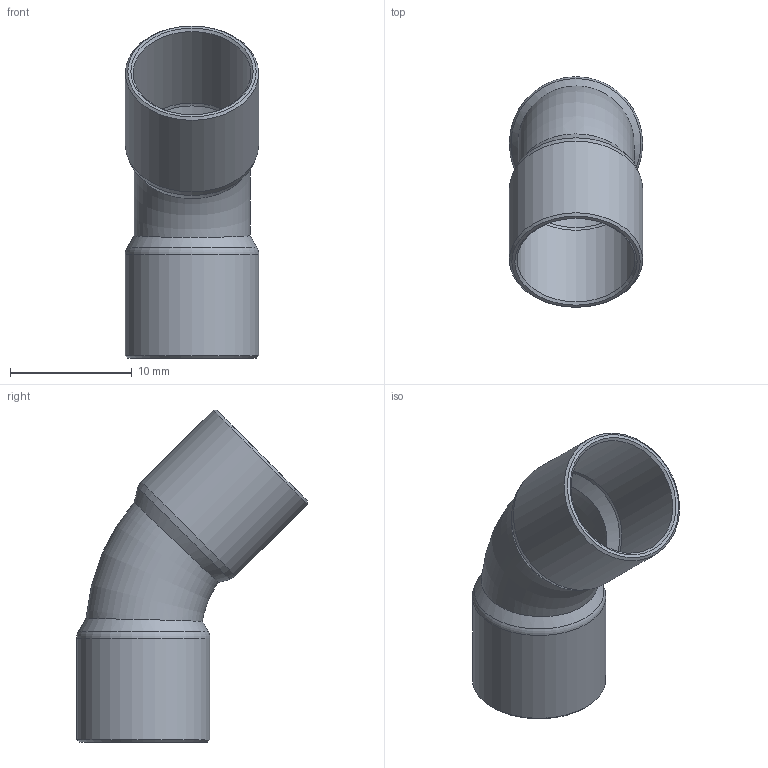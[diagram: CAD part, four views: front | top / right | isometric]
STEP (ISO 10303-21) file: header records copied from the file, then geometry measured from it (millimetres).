
FILE_DESCRIPTION((''),'2;1');
FILE_NAME('G:\SANHA-Ternat\Technik\Management\Bouwmaten + markeringen\z-maattekeningen 3D\29000s\2904138_3d.stp','2017-07-26T11:14:30',('vdvijverd'),(''),'Autodesk Inventor 2009','Autodesk Inventor 2009','');
FILE_SCHEMA(('AUTOMOTIVE_DESIGN { 1 0 10303 214 1 1 1 1 }'));
Length unit declared in the file: millimetre
Products named in the file (1): 2904138_3d
Bounding box: 10.95 x 18.94 x 27.24 mm (x, y, z)
Volume: 548.2 mm3; surface area: 1721.3 mm2
Topology: 1 solids, 1 shells, 20 faces, 38 edges, 20 vertices
Faces by surface type: bspline 8, cone 6, torus 3, cylinder 2, plane 1
Full cylindrical faces by diameter (mm): 9.645 x1, 10.945 x1
Entity records: 808 total; most frequent: CARTESIAN_POINT 478, DIRECTION 58, ORIENTED_EDGE 40, EDGE_LOOP 40, AXIS2_PLACEMENT_3D 29, VERTEX_POINT 20, EDGE_CURVE 20, FACE_OUTER_BOUND 20
